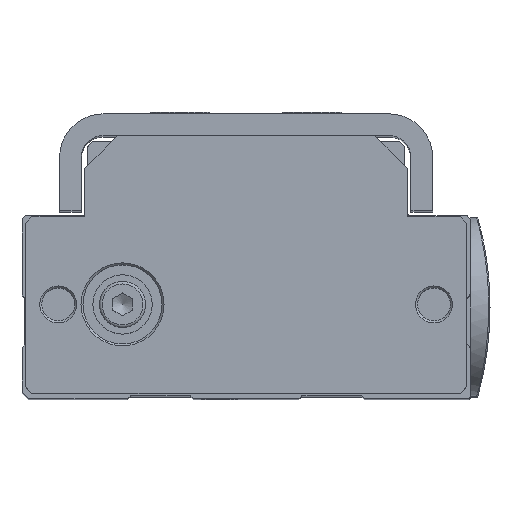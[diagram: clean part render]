
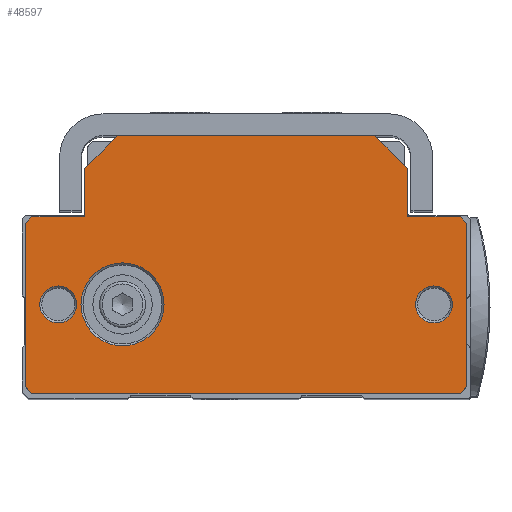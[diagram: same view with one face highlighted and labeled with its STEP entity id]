
A CAD part, top view. The second image highlights one B-rep face of the part: STEP entity #48597.
In plain terms, the highlighted planar face has unit normal (0, 0, 1).
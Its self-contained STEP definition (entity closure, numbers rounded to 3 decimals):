
#3796=FACE_BOUND('',#9190,.T.);
#3797=FACE_BOUND('',#9191,.T.);
#3798=FACE_BOUND('',#9192,.T.);
#4519=PLANE('',#52152);
#6498=FACE_OUTER_BOUND('',#9189,.T.);
#9189=EDGE_LOOP('',(#39655,#39656,#39657,#39658,#39659,#39660,#39661,#39662,
#39663,#39664,#39665,#39666,#39667,#39668));
#9190=EDGE_LOOP('',(#39669,#39670));
#9191=EDGE_LOOP('',(#39671,#39672));
#9192=EDGE_LOOP('',(#39673,#39674));
#12644=LINE('',#83307,#16384);
#12646=LINE('',#83311,#16386);
#12649=LINE('',#83317,#16389);
#12650=LINE('',#83319,#16390);
#12651=LINE('',#83321,#16391);
#12652=LINE('',#83323,#16392);
#12653=LINE('',#83325,#16393);
#12654=LINE('',#83327,#16394);
#12655=LINE('',#83329,#16395);
#12656=LINE('',#83331,#16396);
#12657=LINE('',#83333,#16397);
#12658=LINE('',#83335,#16398);
#12659=LINE('',#83337,#16399);
#12660=LINE('',#83338,#16400);
#16384=VECTOR('',#60521,10.);
#16386=VECTOR('',#60525,1000.);
#16389=VECTOR('',#60530,1000.);
#16390=VECTOR('',#60531,10.);
#16391=VECTOR('',#60532,1000.);
#16392=VECTOR('',#60533,1000.);
#16393=VECTOR('',#60534,1000.);
#16394=VECTOR('',#60535,1000.);
#16395=VECTOR('',#60536,1000.);
#16396=VECTOR('',#60537,1000.);
#16397=VECTOR('',#60538,1000.);
#16398=VECTOR('',#60539,1000.);
#16399=VECTOR('',#60540,1000.);
#16400=VECTOR('',#60541,1000.);
#18898=CIRCLE('',#52153,2.8);
#18899=CIRCLE('',#52154,2.8);
#18900=CIRCLE('',#52155,2.8);
#18901=CIRCLE('',#52156,2.8);
#18902=CIRCLE('',#52157,6.3);
#18903=CIRCLE('',#52158,6.3);
#22752=VERTEX_POINT('',#83304);
#22753=VERTEX_POINT('',#83306);
#22754=VERTEX_POINT('',#83310);
#22756=VERTEX_POINT('',#83316);
#22757=VERTEX_POINT('',#83318);
#22758=VERTEX_POINT('',#83320);
#22759=VERTEX_POINT('',#83322);
#22760=VERTEX_POINT('',#83324);
#22761=VERTEX_POINT('',#83326);
#22762=VERTEX_POINT('',#83328);
#22763=VERTEX_POINT('',#83330);
#22764=VERTEX_POINT('',#83332);
#22765=VERTEX_POINT('',#83334);
#22766=VERTEX_POINT('',#83336);
#22767=VERTEX_POINT('',#83339);
#22768=VERTEX_POINT('',#83340);
#22769=VERTEX_POINT('',#83343);
#22770=VERTEX_POINT('',#83344);
#22771=VERTEX_POINT('',#83347);
#22772=VERTEX_POINT('',#83348);
#28798=EDGE_CURVE('',#22752,#22753,#12644,.T.);
#28800=EDGE_CURVE('',#22753,#22754,#12646,.T.);
#28803=EDGE_CURVE('',#22752,#22756,#12649,.T.);
#28804=EDGE_CURVE('',#22757,#22756,#12650,.T.);
#28805=EDGE_CURVE('',#22758,#22757,#12651,.T.);
#28806=EDGE_CURVE('',#22759,#22758,#12652,.T.);
#28807=EDGE_CURVE('',#22759,#22760,#12653,.T.);
#28808=EDGE_CURVE('',#22760,#22761,#12654,.T.);
#28809=EDGE_CURVE('',#22761,#22762,#12655,.T.);
#28810=EDGE_CURVE('',#22763,#22762,#12656,.T.);
#28811=EDGE_CURVE('',#22763,#22764,#12657,.T.);
#28812=EDGE_CURVE('',#22764,#22765,#12658,.T.);
#28813=EDGE_CURVE('',#22765,#22766,#12659,.T.);
#28814=EDGE_CURVE('',#22754,#22766,#12660,.T.);
#28815=EDGE_CURVE('',#22767,#22768,#18898,.T.);
#28816=EDGE_CURVE('',#22768,#22767,#18899,.T.);
#28817=EDGE_CURVE('',#22769,#22770,#18900,.T.);
#28818=EDGE_CURVE('',#22770,#22769,#18901,.T.);
#28819=EDGE_CURVE('',#22771,#22772,#18902,.T.);
#28820=EDGE_CURVE('',#22772,#22771,#18903,.T.);
#39655=ORIENTED_EDGE('',*,*,#28798,.F.);
#39656=ORIENTED_EDGE('',*,*,#28803,.T.);
#39657=ORIENTED_EDGE('',*,*,#28804,.F.);
#39658=ORIENTED_EDGE('',*,*,#28805,.F.);
#39659=ORIENTED_EDGE('',*,*,#28806,.F.);
#39660=ORIENTED_EDGE('',*,*,#28807,.T.);
#39661=ORIENTED_EDGE('',*,*,#28808,.T.);
#39662=ORIENTED_EDGE('',*,*,#28809,.T.);
#39663=ORIENTED_EDGE('',*,*,#28810,.F.);
#39664=ORIENTED_EDGE('',*,*,#28811,.T.);
#39665=ORIENTED_EDGE('',*,*,#28812,.T.);
#39666=ORIENTED_EDGE('',*,*,#28813,.T.);
#39667=ORIENTED_EDGE('',*,*,#28814,.F.);
#39668=ORIENTED_EDGE('',*,*,#28800,.F.);
#39669=ORIENTED_EDGE('',*,*,#28815,.T.);
#39670=ORIENTED_EDGE('',*,*,#28816,.T.);
#39671=ORIENTED_EDGE('',*,*,#28817,.T.);
#39672=ORIENTED_EDGE('',*,*,#28818,.T.);
#39673=ORIENTED_EDGE('',*,*,#28819,.T.);
#39674=ORIENTED_EDGE('',*,*,#28820,.T.);
#48597=ADVANCED_FACE('',(#6498,#3796,#3797,#3798),#4519,.T.);
#52152=AXIS2_PLACEMENT_3D('',#83315,#60528,#60529);
#52153=AXIS2_PLACEMENT_3D('',#83341,#60542,#60543);
#52154=AXIS2_PLACEMENT_3D('',#83342,#60544,#60545);
#52155=AXIS2_PLACEMENT_3D('',#83345,#60546,#60547);
#52156=AXIS2_PLACEMENT_3D('',#83346,#60548,#60549);
#52157=AXIS2_PLACEMENT_3D('',#83349,#60550,#60551);
#52158=AXIS2_PLACEMENT_3D('',#83350,#60552,#60553);
#60521=DIRECTION('',(0.707,-0.707,0.));
#60525=DIRECTION('',(0.,-1.,0.));
#60528=DIRECTION('center_axis',(0.,0.,1.));
#60529=DIRECTION('ref_axis',(1.,0.,0.));
#60530=DIRECTION('',(-1.,0.,0.));
#60531=DIRECTION('',(0.707,0.707,0.));
#60532=DIRECTION('',(0.,1.,0.));
#60533=DIRECTION('',(1.,0.,0.));
#60534=DIRECTION('',(-0.707,-0.707,0.));
#60535=DIRECTION('',(0.,-1.,0.));
#60536=DIRECTION('',(0.707,-0.707,0.));
#60537=DIRECTION('',(-1.,0.,0.));
#60538=DIRECTION('',(0.707,0.707,0.));
#60539=DIRECTION('',(0.,1.,0.));
#60540=DIRECTION('',(-0.707,0.707,0.));
#60541=DIRECTION('',(1.,0.,0.));
#60542=DIRECTION('center_axis',(0.,0.,-1.));
#60543=DIRECTION('ref_axis',(1.,0.,0.));
#60544=DIRECTION('center_axis',(0.,0.,-1.));
#60545=DIRECTION('ref_axis',(1.,0.,0.));
#60546=DIRECTION('center_axis',(0.,0.,-1.));
#60547=DIRECTION('ref_axis',(1.,0.,0.));
#60548=DIRECTION('center_axis',(0.,0.,-1.));
#60549=DIRECTION('ref_axis',(1.,0.,0.));
#60550=DIRECTION('center_axis',(0.,0.,-1.));
#60551=DIRECTION('ref_axis',(1.,0.,0.));
#60552=DIRECTION('center_axis',(0.,0.,-1.));
#60553=DIRECTION('ref_axis',(1.,0.,0.));
#83304=CARTESIAN_POINT('',(19.5,19.575,0.));
#83306=CARTESIAN_POINT('',(24.5,14.575,0.));
#83307=CARTESIAN_POINT('',(20.769,18.306,0.));
#83310=CARTESIAN_POINT('',(24.5,7.275,0.));
#83311=CARTESIAN_POINT('',(24.5,20.025,0.));
#83315=CARTESIAN_POINT('Origin',(0.,0.,0.));
#83316=CARTESIAN_POINT('',(-19.5,19.575,0.));
#83317=CARTESIAN_POINT('',(-33.5,19.575,0.));
#83318=CARTESIAN_POINT('',(-24.5,14.575,0.));
#83319=CARTESIAN_POINT('',(-20.769,18.306,0.));
#83320=CARTESIAN_POINT('',(-24.5,7.275,0.));
#83321=CARTESIAN_POINT('',(-24.5,20.025,0.));
#83322=CARTESIAN_POINT('',(-32.5,7.275,0.));
#83323=CARTESIAN_POINT('',(-33.5,7.275,0.));
#83324=CARTESIAN_POINT('',(-33.5,6.275,0.));
#83325=CARTESIAN_POINT('',(-19.888,19.888,0.));
#83326=CARTESIAN_POINT('',(-33.5,-18.525,0.));
#83327=CARTESIAN_POINT('',(-33.5,20.025,0.));
#83328=CARTESIAN_POINT('',(-32.5,-19.525,0.));
#83329=CARTESIAN_POINT('',(-26.013,-26.012,0.));
#83330=CARTESIAN_POINT('',(32.5,-19.525,0.));
#83331=CARTESIAN_POINT('',(33.5,-19.525,0.));
#83332=CARTESIAN_POINT('',(33.5,-18.525,0.));
#83333=CARTESIAN_POINT('',(26.013,-26.012,0.));
#83334=CARTESIAN_POINT('',(33.5,6.275,0.));
#83335=CARTESIAN_POINT('',(33.5,20.025,0.));
#83336=CARTESIAN_POINT('',(32.5,7.275,0.));
#83337=CARTESIAN_POINT('',(19.888,19.888,0.));
#83338=CARTESIAN_POINT('',(33.5,7.275,0.));
#83339=CARTESIAN_POINT('',(31.3,-6.025,0.));
#83340=CARTESIAN_POINT('',(25.7,-6.025,0.));
#83341=CARTESIAN_POINT('Origin',(28.5,-6.025,0.));
#83342=CARTESIAN_POINT('Origin',(28.5,-6.025,0.));
#83343=CARTESIAN_POINT('',(-25.7,-6.025,0.));
#83344=CARTESIAN_POINT('',(-31.3,-6.025,0.));
#83345=CARTESIAN_POINT('Origin',(-28.5,-6.025,0.));
#83346=CARTESIAN_POINT('Origin',(-28.5,-6.025,0.));
#83347=CARTESIAN_POINT('',(-12.45,-6.025,0.));
#83348=CARTESIAN_POINT('',(-25.05,-6.025,0.));
#83349=CARTESIAN_POINT('Origin',(-18.75,-6.025,0.));
#83350=CARTESIAN_POINT('Origin',(-18.75,-6.025,0.));
